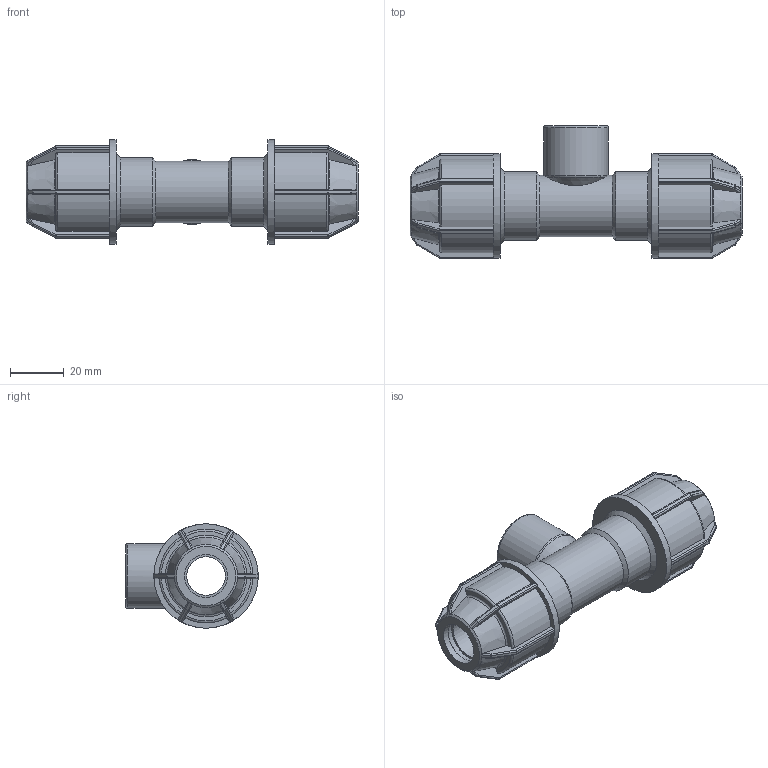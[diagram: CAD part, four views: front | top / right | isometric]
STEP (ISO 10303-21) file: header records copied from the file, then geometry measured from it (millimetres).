
FILE_DESCRIPTION(/* description */ ('PLASSON L.14 TEE FEMALE ADAPTOR (SILVER) 16 x 1/2" x 16'),/* implementation_level */ '2;1');
FILE_NAME(/* name */ 'C:\Dropbox\KIMPROJECTS-Inventor\99-16-3568-Processing\Silver Fittings\141400\141400016005.ipt.stp',/* time_stamp */ '2018-04-16T11:15:42+03:00',/* author */ ('KIM'),/* organization */ (''),/* preprocessor_version */ 'ST-DEVELOPER v15.6',/* originating_system */ 'Autodesk Inventor 2015',/* authorisation */ '');
FILE_SCHEMA (('AUTOMOTIVE_DESIGN { 1 0 10303 214 3 1 1 }'));
Length unit declared in the file: millimetre
Products named in the file (1): 141400016005
Bounding box: 124 x 49.5 x 39 mm (x, y, z)
Volume: 63936.7 mm3; surface area: 24493.6 mm2
Topology: 1 solids, 1 shells, 416 faces, 987 edges, 569 vertices
Faces by surface type: plane 194, cylinder 121, sphere 48, torus 33, cone 20
Full cylindrical faces by diameter (mm): 14.4 x2, 16 x4, 18.631 x1, 23.04 x1, 24.22 x1, 25.6 x2, 39 x2
Entity records: 12092 total; most frequent: CARTESIAN_POINT 3115, DIRECTION 1884, ORIENTED_EDGE 1850, EDGE_CURVE 925, AXIS2_PLACEMENT_3D 762, VERTEX_POINT 547, EDGE_LOOP 448, FACE_OUTER_BOUND 412
